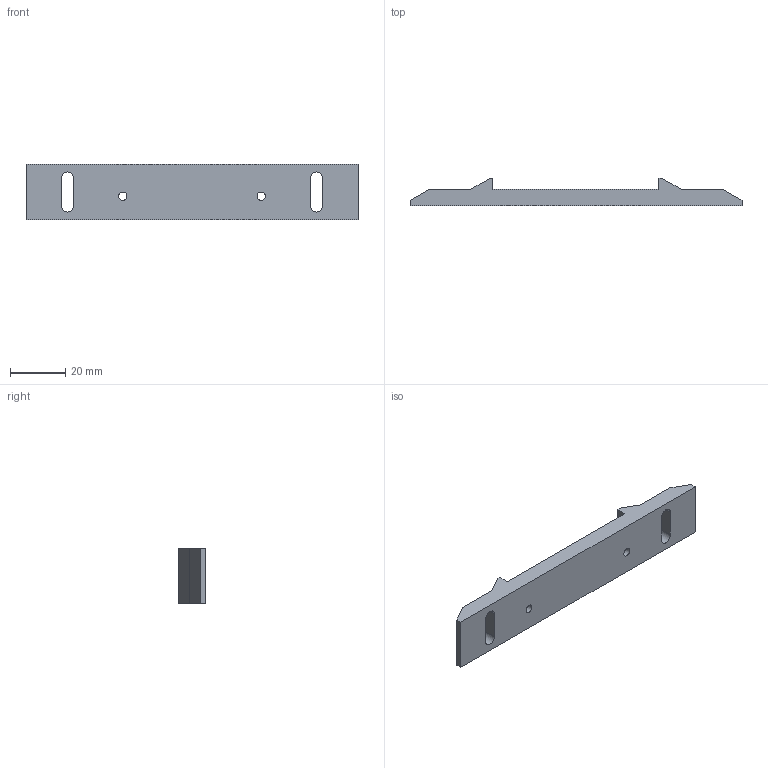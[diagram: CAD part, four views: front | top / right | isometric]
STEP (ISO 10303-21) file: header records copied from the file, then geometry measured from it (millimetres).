
FILE_DESCRIPTION((''),'2;1');
FILE_NAME('C:\Documents and Settings\古川典政\My Documents\Inventor\HP用\MasterData\ACCESSORY\M4\MP-20120-4.stp','2008-08-05T11:50:58',(''),(''),'Autodesk Inventor 2008','Autodesk Inventor 2008','');
FILE_SCHEMA(('CONFIG_CONTROL_DESIGN'));
Length unit declared in the file: millimetre
Products named in the file (1): MP-20120-4
Bounding box: 120 x 10 x 20 mm (x, y, z)
Volume: 13744.2 mm3; surface area: 6831.8 mm2
Topology: 1 solids, 1 shells, 26 faces, 74 edges, 50 vertices
Faces by surface type: plane 18, bspline 5, cylinder 3
Full cylindrical faces by diameter (mm): 3 x1
Entity records: 890 total; most frequent: CARTESIAN_POINT 202, ORIENTED_EDGE 140, DIRECTION 126, EDGE_CURVE 70, VECTOR 58, LINE 58, VERTEX_POINT 48, EDGE_LOOP 36
